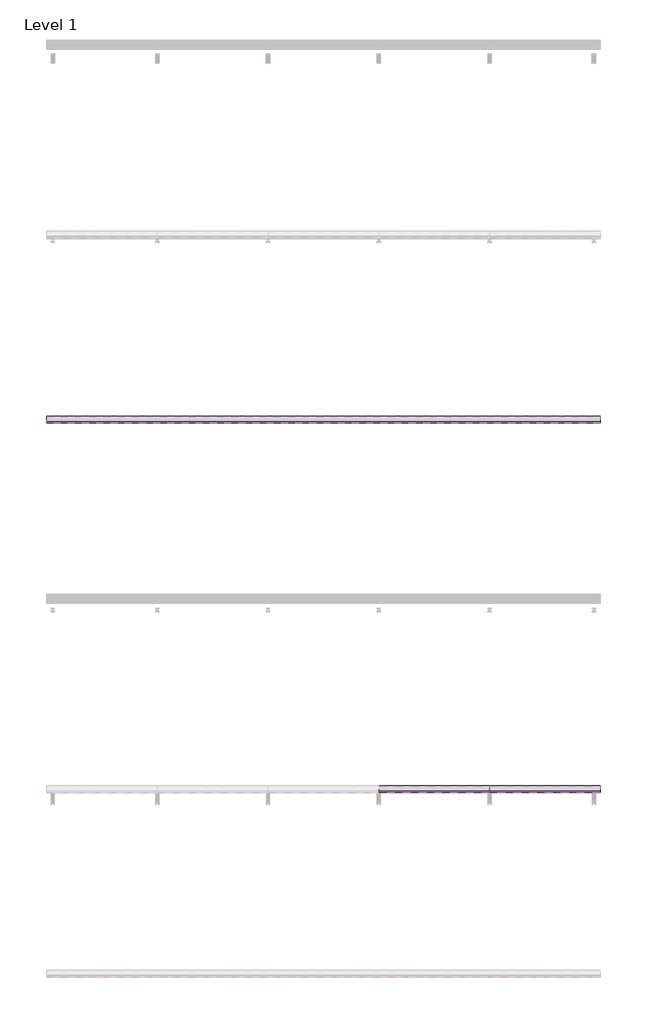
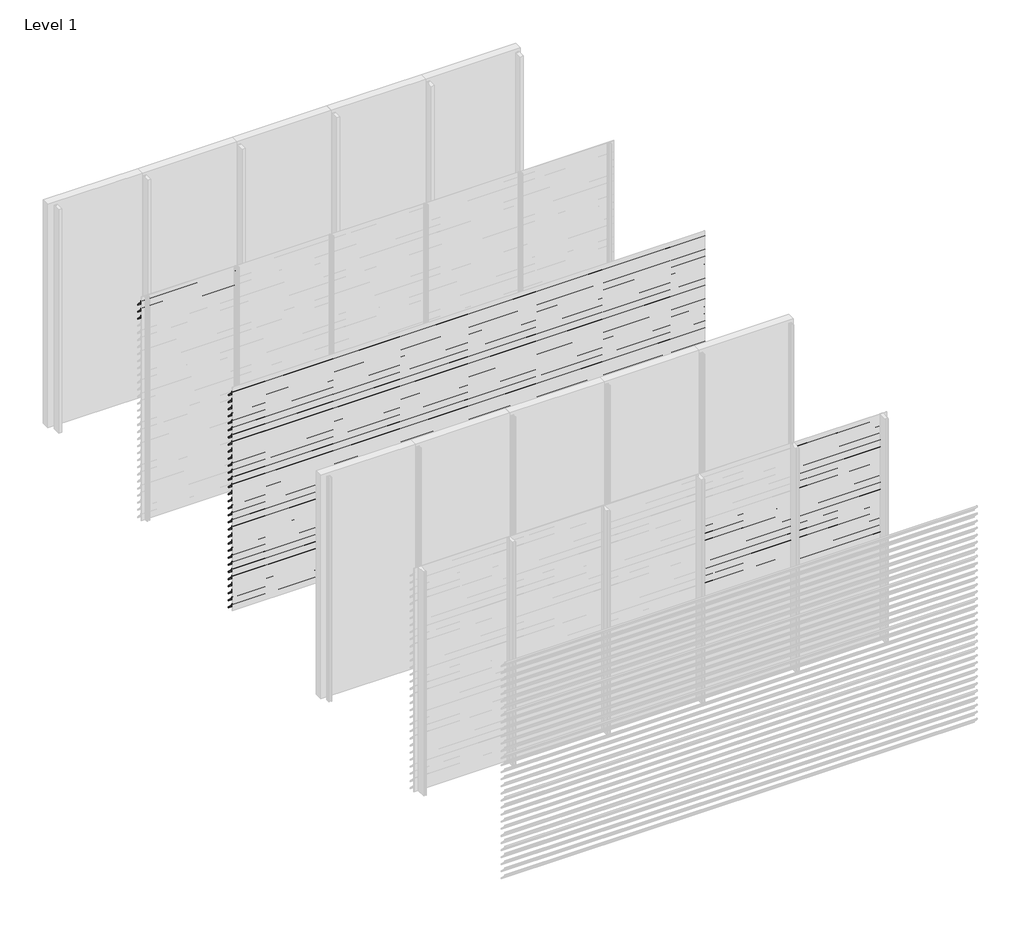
# One storey, part 7 of 24: 89 proxies.
"""IFC4 building model written with IfcOpenShell, lengths in millimetres."""

from ifc_helpers import new_model, si_unit, frame, origin, place, context, project, spatial, polyline, outline, extrude, element, save

model = new_model("IFC4")

# Units and contexts
model_context = context("Model", 3, world=origin())
ifc_project = project(units=[si_unit("LENGTHUNIT", "METRE", prefix="MILLI")], contexts=[model_context])

# Site, building, storey
site = spatial("IfcSite", under=ifc_project)
building = spatial("IfcBuilding", under=site)
storey = spatial("IfcBuildingStorey", under=building, Name="Level 1", Elevation=0.0)

# Proxies
placement = place(None, origin())
element("IfcBuildingElementProxy", 1, Name="Wall Sweeps", at=placement, inside=storey, context=model_context, shape_type="SweptSolid", body=[
    extrude(outline(polyline([(-41920.8, 2842.9), (-41922.3, 2842.9), (-41922.3, 2855.1762333), (-41998.0, 2930.4561238), (-41998.0, 2945.0), (-41996.5, 2945.0), (-41996.5, 2931.0798905), (-41920.8, 2855.8), (-41920.8, 2842.9)])), frame((0.0, 0.0, 0.0), z_axis=(1.0, 0.0, 0.0), x_axis=(0.0, 1.0, 0.0)), (0.0, 0.0, 1.0), 1200.0),
])
element("IfcBuildingElementProxy", 2, Name="Wall Sweeps", at=placement, inside=storey, context=model_context, shape_type="SweptSolid", body=[
    extrude(outline(polyline([(-41920.8, 2747.9), (-41922.3, 2747.9), (-41922.3, 2760.1762333), (-41998.0, 2835.4561238), (-41998.0, 2850.0), (-41996.5, 2850.0), (-41996.5, 2836.0798905), (-41920.8, 2760.8), (-41920.8, 2747.9)])), frame((0.0, 0.0, 0.0), z_axis=(1.0, 0.0, 0.0), x_axis=(0.0, 1.0, 0.0)), (0.0, 0.0, 1.0), 1200.0),
])
element("IfcBuildingElementProxy", 3, Name="Wall Sweeps", at=placement, inside=storey, context=model_context, shape_type="SweptSolid", body=[
    extrude(outline(polyline([(-41920.8, 2652.9), (-41922.3, 2652.9), (-41922.3, 2665.1762333), (-41998.0, 2740.4561238), (-41998.0, 2755.0), (-41996.5, 2755.0), (-41996.5, 2741.0798905), (-41920.8, 2665.8), (-41920.8, 2652.9)])), frame((0.0, 0.0, 0.0), z_axis=(1.0, 0.0, 0.0), x_axis=(0.0, 1.0, 0.0)), (0.0, 0.0, 1.0), 1200.0),
])
element("IfcBuildingElementProxy", 4, Name="Wall Sweeps", at=placement, inside=storey, context=model_context, shape_type="SweptSolid", body=[
    extrude(outline(polyline([(-43920.8, 2842.9), (-43922.3, 2842.9), (-43922.3, 2855.1762333), (-43998.0, 2930.4561238), (-43998.0, 2945.0), (-43996.5, 2945.0), (-43996.5, 2931.0798905), (-43920.8, 2855.8), (-43920.8, 2842.9)])), frame((0.0, 0.0, 0.0), z_axis=(1.0, 0.0, 0.0), x_axis=(0.0, 1.0, 0.0)), (0.0, 0.0, 1.0), 6000.0),
])
element("IfcBuildingElementProxy", 5, Name="Wall Sweeps", at=placement, inside=storey, context=model_context, shape_type="SweptSolid", body=[
    extrude(outline(polyline([(-43920.8, 2747.9), (-43922.3, 2747.9), (-43922.3, 2760.1762333), (-43998.0, 2835.4561238), (-43998.0, 2850.0), (-43996.5, 2850.0), (-43996.5, 2836.0798905), (-43920.8, 2760.8), (-43920.8, 2747.9)])), frame((0.0, 0.0, 0.0), z_axis=(1.0, 0.0, 0.0), x_axis=(0.0, 1.0, 0.0)), (0.0, 0.0, 1.0), 6000.0),
])
element("IfcBuildingElementProxy", 6, Name="Wall Sweeps", at=placement, inside=storey, context=model_context, shape_type="SweptSolid", body=[
    extrude(outline(polyline([(-43920.8, 2652.9), (-43922.3, 2652.9), (-43922.3, 2665.1762333), (-43998.0, 2740.4561238), (-43998.0, 2755.0), (-43996.5, 2755.0), (-43996.5, 2741.0798905), (-43920.8, 2665.8), (-43920.8, 2652.9)])), frame((0.0, 0.0, 0.0), z_axis=(1.0, 0.0, 0.0), x_axis=(0.0, 1.0, 0.0)), (0.0, 0.0, 1.0), 6000.0),
])
element("IfcBuildingElementProxy", 7, Name="Wall Sweeps", at=placement, inside=storey, context=model_context, shape_type="SweptSolid", body=[
    extrude(outline(polyline([(-43920.8, 2557.9), (-43922.3, 2557.9), (-43922.3, 2570.1762333), (-43998.0, 2645.4561238), (-43998.0, 2660.0), (-43996.5, 2660.0), (-43996.5, 2646.0798905), (-43920.8, 2570.8), (-43920.8, 2557.9)])), frame((0.0, 0.0, 0.0), z_axis=(1.0, 0.0, 0.0), x_axis=(0.0, 1.0, 0.0)), (0.0, 0.0, 1.0), 6000.0),
])
element("IfcBuildingElementProxy", 8, Name="Wall Sweeps", at=placement, inside=storey, context=model_context, shape_type="SweptSolid", body=[
    extrude(outline(polyline([(-43920.8, 2462.9), (-43922.3, 2462.9), (-43922.3, 2475.1762333), (-43998.0, 2550.4561238), (-43998.0, 2565.0), (-43996.5, 2565.0), (-43996.5, 2551.0798905), (-43920.8, 2475.8), (-43920.8, 2462.9)])), frame((0.0, 0.0, 0.0), z_axis=(1.0, 0.0, 0.0), x_axis=(0.0, 1.0, 0.0)), (0.0, 0.0, 1.0), 6000.0),
])
element("IfcBuildingElementProxy", 9, Name="Wall Sweeps", at=placement, inside=storey, context=model_context, shape_type="SweptSolid", body=[
    extrude(outline(polyline([(-43920.8, 2367.9), (-43922.3, 2367.9), (-43922.3, 2380.1762333), (-43998.0, 2455.4561238), (-43998.0, 2470.0), (-43996.5, 2470.0), (-43996.5, 2456.0798905), (-43920.8, 2380.8), (-43920.8, 2367.9)])), frame((0.0, 0.0, 0.0), z_axis=(1.0, 0.0, 0.0), x_axis=(0.0, 1.0, 0.0)), (0.0, 0.0, 1.0), 6000.0),
])
element("IfcBuildingElementProxy", 10, Name="Wall Sweeps", at=placement, inside=storey, context=model_context, shape_type="SweptSolid", body=[
    extrude(outline(polyline([(-43920.8, 2272.9), (-43922.3, 2272.9), (-43922.3, 2285.1762333), (-43998.0, 2360.4561238), (-43998.0, 2375.0), (-43996.5, 2375.0), (-43996.5, 2361.0798905), (-43920.8, 2285.8), (-43920.8, 2272.9)])), frame((0.0, 0.0, 0.0), z_axis=(1.0, 0.0, 0.0), x_axis=(0.0, 1.0, 0.0)), (0.0, 0.0, 1.0), 6000.0),
])
element("IfcBuildingElementProxy", 11, Name="Wall Sweeps", at=placement, inside=storey, context=model_context, shape_type="SweptSolid", body=[
    extrude(outline(polyline([(-43920.8, 2177.9), (-43922.3, 2177.9), (-43922.3, 2190.1762333), (-43998.0, 2265.4561238), (-43998.0, 2280.0), (-43996.5, 2280.0), (-43996.5, 2266.0798905), (-43920.8, 2190.8), (-43920.8, 2177.9)])), frame((0.0, 0.0, 0.0), z_axis=(1.0, 0.0, 0.0), x_axis=(0.0, 1.0, 0.0)), (0.0, 0.0, 1.0), 6000.0),
])
element("IfcBuildingElementProxy", 12, Name="Wall Sweeps", at=placement, inside=storey, context=model_context, shape_type="SweptSolid", body=[
    extrude(outline(polyline([(-43920.8, 2082.9), (-43922.3, 2082.9), (-43922.3, 2095.1762333), (-43998.0, 2170.4561238), (-43998.0, 2185.0), (-43996.5, 2185.0), (-43996.5, 2171.0798905), (-43920.8, 2095.8), (-43920.8, 2082.9)])), frame((0.0, 0.0, 0.0), z_axis=(1.0, 0.0, 0.0), x_axis=(0.0, 1.0, 0.0)), (0.0, 0.0, 1.0), 6000.0),
])
element("IfcBuildingElementProxy", 13, Name="Wall Sweeps", at=placement, inside=storey, context=model_context, shape_type="SweptSolid", body=[
    extrude(outline(polyline([(-43920.8, 1987.9), (-43922.3, 1987.9), (-43922.3, 2000.1762333), (-43998.0, 2075.4561238), (-43998.0, 2090.0), (-43996.5, 2090.0), (-43996.5, 2076.0798905), (-43920.8, 2000.8), (-43920.8, 1987.9)])), frame((0.0, 0.0, 0.0), z_axis=(1.0, 0.0, 0.0), x_axis=(0.0, 1.0, 0.0)), (0.0, 0.0, 1.0), 6000.0),
])
element("IfcBuildingElementProxy", 14, Name="Wall Sweeps", at=placement, inside=storey, context=model_context, shape_type="SweptSolid", body=[
    extrude(outline(polyline([(-43920.8, 1892.9), (-43922.3, 1892.9), (-43922.3, 1905.1762333), (-43998.0, 1980.4561238), (-43998.0, 1995.0), (-43996.5, 1995.0), (-43996.5, 1981.0798905), (-43920.8, 1905.8), (-43920.8, 1892.9)])), frame((0.0, 0.0, 0.0), z_axis=(1.0, 0.0, 0.0), x_axis=(0.0, 1.0, 0.0)), (0.0, 0.0, 1.0), 6000.0),
])
element("IfcBuildingElementProxy", 15, Name="Wall Sweeps", at=placement, inside=storey, context=model_context, shape_type="SweptSolid", body=[
    extrude(outline(polyline([(-43920.8, 1797.9), (-43922.3, 1797.9), (-43922.3, 1810.1762333), (-43998.0, 1885.4561238), (-43998.0, 1900.0), (-43996.5, 1900.0), (-43996.5, 1886.0798905), (-43920.8, 1810.8), (-43920.8, 1797.9)])), frame((0.0, 0.0, 0.0), z_axis=(1.0, 0.0, 0.0), x_axis=(0.0, 1.0, 0.0)), (0.0, 0.0, 1.0), 6000.0),
])
element("IfcBuildingElementProxy", 16, Name="Wall Sweeps", at=placement, inside=storey, context=model_context, shape_type="SweptSolid", body=[
    extrude(outline(polyline([(-43920.8, 1702.9), (-43922.3, 1702.9), (-43922.3, 1715.1762333), (-43998.0, 1790.4561238), (-43998.0, 1805.0), (-43996.5, 1805.0), (-43996.5, 1791.0798905), (-43920.8, 1715.8), (-43920.8, 1702.9)])), frame((0.0, 0.0, 0.0), z_axis=(1.0, 0.0, 0.0), x_axis=(0.0, 1.0, 0.0)), (0.0, 0.0, 1.0), 6000.0),
])
element("IfcBuildingElementProxy", 17, Name="Wall Sweeps", at=placement, inside=storey, context=model_context, shape_type="SweptSolid", body=[
    extrude(outline(polyline([(-43920.8, 1607.9), (-43922.3, 1607.9), (-43922.3, 1620.1762333), (-43998.0, 1695.4561238), (-43998.0, 1710.0), (-43996.5, 1710.0), (-43996.5, 1696.0798905), (-43920.8, 1620.8), (-43920.8, 1607.9)])), frame((0.0, 0.0, 0.0), z_axis=(1.0, 0.0, 0.0), x_axis=(0.0, 1.0, 0.0)), (0.0, 0.0, 1.0), 6000.0),
])
element("IfcBuildingElementProxy", 18, Name="Wall Sweeps", at=placement, inside=storey, context=model_context, shape_type="SweptSolid", body=[
    extrude(outline(polyline([(-43920.8, 1512.9), (-43922.3, 1512.9), (-43922.3, 1525.1762333), (-43998.0, 1600.4561238), (-43998.0, 1615.0), (-43996.5, 1615.0), (-43996.5, 1601.0798905), (-43920.8, 1525.8), (-43920.8, 1512.9)])), frame((0.0, 0.0, 0.0), z_axis=(1.0, 0.0, 0.0), x_axis=(0.0, 1.0, 0.0)), (0.0, 0.0, 1.0), 6000.0),
])
element("IfcBuildingElementProxy", 19, Name="Wall Sweeps", at=placement, inside=storey, context=model_context, shape_type="SweptSolid", body=[
    extrude(outline(polyline([(-43920.8, 1417.9), (-43922.3, 1417.9), (-43922.3, 1430.1762333), (-43998.0, 1505.4561238), (-43998.0, 1520.0), (-43996.5, 1520.0), (-43996.5, 1506.0798905), (-43920.8, 1430.8), (-43920.8, 1417.9)])), frame((0.0, 0.0, 0.0), z_axis=(1.0, 0.0, 0.0), x_axis=(0.0, 1.0, 0.0)), (0.0, 0.0, 1.0), 6000.0),
])
element("IfcBuildingElementProxy", 20, Name="Wall Sweeps", at=placement, inside=storey, context=model_context, shape_type="SweptSolid", body=[
    extrude(outline(polyline([(-43920.8, 1322.9), (-43922.3, 1322.9), (-43922.3, 1335.1762333), (-43998.0, 1410.4561238), (-43998.0, 1425.0), (-43996.5, 1425.0), (-43996.5, 1411.0798905), (-43920.8, 1335.8), (-43920.8, 1322.9)])), frame((0.0, 0.0, 0.0), z_axis=(1.0, 0.0, 0.0), x_axis=(0.0, 1.0, 0.0)), (0.0, 0.0, 1.0), 6000.0),
])
element("IfcBuildingElementProxy", 21, Name="Wall Sweeps", at=placement, inside=storey, context=model_context, shape_type="SweptSolid", body=[
    extrude(outline(polyline([(-43920.8, 1227.9), (-43922.3, 1227.9), (-43922.3, 1240.1762333), (-43998.0, 1315.4561238), (-43998.0, 1330.0), (-43996.5, 1330.0), (-43996.5, 1316.0798905), (-43920.8, 1240.8), (-43920.8, 1227.9)])), frame((0.0, 0.0, 0.0), z_axis=(1.0, 0.0, 0.0), x_axis=(0.0, 1.0, 0.0)), (0.0, 0.0, 1.0), 6000.0),
])
element("IfcBuildingElementProxy", 22, Name="Wall Sweeps", at=placement, inside=storey, context=model_context, shape_type="SweptSolid", body=[
    extrude(outline(polyline([(-43920.8, 1132.9), (-43922.3, 1132.9), (-43922.3, 1145.1762333), (-43998.0, 1220.4561238), (-43998.0, 1235.0), (-43996.5, 1235.0), (-43996.5, 1221.0798905), (-43920.8, 1145.8), (-43920.8, 1132.9)])), frame((0.0, 0.0, 0.0), z_axis=(1.0, 0.0, 0.0), x_axis=(0.0, 1.0, 0.0)), (0.0, 0.0, 1.0), 6000.0),
])
element("IfcBuildingElementProxy", 23, Name="Wall Sweeps", at=placement, inside=storey, context=model_context, shape_type="SweptSolid", body=[
    extrude(outline(polyline([(-43920.8, 1037.9), (-43922.3, 1037.9), (-43922.3, 1050.1762333), (-43998.0, 1125.4561238), (-43998.0, 1140.0), (-43996.5, 1140.0), (-43996.5, 1126.0798905), (-43920.8, 1050.8), (-43920.8, 1037.9)])), frame((0.0, 0.0, 0.0), z_axis=(1.0, 0.0, 0.0), x_axis=(0.0, 1.0, 0.0)), (0.0, 0.0, 1.0), 6000.0),
])
element("IfcBuildingElementProxy", 24, Name="Wall Sweeps", at=placement, inside=storey, context=model_context, shape_type="SweptSolid", body=[
    extrude(outline(polyline([(-43920.8, 942.9), (-43922.3, 942.9), (-43922.3, 955.1762333), (-43998.0, 1030.4561238), (-43998.0, 1045.0), (-43996.5, 1045.0), (-43996.5, 1031.0798905), (-43920.8, 955.8), (-43920.8, 942.9)])), frame((0.0, 0.0, 0.0), z_axis=(1.0, 0.0, 0.0), x_axis=(0.0, 1.0, 0.0)), (0.0, 0.0, 1.0), 6000.0),
])
element("IfcBuildingElementProxy", 25, Name="Wall Sweeps", at=placement, inside=storey, context=model_context, shape_type="SweptSolid", body=[
    extrude(outline(polyline([(-43920.8, 847.9), (-43922.3, 847.9), (-43922.3, 860.1762333), (-43998.0, 935.4561238), (-43998.0, 950.0), (-43996.5, 950.0), (-43996.5, 936.0798905), (-43920.8, 860.8), (-43920.8, 847.9)])), frame((0.0, 0.0, 0.0), z_axis=(1.0, 0.0, 0.0), x_axis=(0.0, 1.0, 0.0)), (0.0, 0.0, 1.0), 6000.0),
])
element("IfcBuildingElementProxy", 26, Name="Wall Sweeps", at=placement, inside=storey, context=model_context, shape_type="SweptSolid", body=[
    extrude(outline(polyline([(-43920.8, 752.9), (-43922.3, 752.9), (-43922.3, 765.1762333), (-43998.0, 840.4561238), (-43998.0, 855.0), (-43996.5, 855.0), (-43996.5, 841.0798905), (-43920.8, 765.8), (-43920.8, 752.9)])), frame((0.0, 0.0, 0.0), z_axis=(1.0, 0.0, 0.0), x_axis=(0.0, 1.0, 0.0)), (0.0, 0.0, 1.0), 6000.0),
])
element("IfcBuildingElementProxy", 27, Name="Wall Sweeps", at=placement, inside=storey, context=model_context, shape_type="SweptSolid", body=[
    extrude(outline(polyline([(-43920.8, 657.9), (-43922.3, 657.9), (-43922.3, 670.1762333), (-43998.0, 745.4561238), (-43998.0, 760.0), (-43996.5, 760.0), (-43996.5, 746.0798905), (-43920.8, 670.8), (-43920.8, 657.9)])), frame((0.0, 0.0, 0.0), z_axis=(1.0, 0.0, 0.0), x_axis=(0.0, 1.0, 0.0)), (0.0, 0.0, 1.0), 6000.0),
])
element("IfcBuildingElementProxy", 28, Name="Wall Sweeps", at=placement, inside=storey, context=model_context, shape_type="SweptSolid", body=[
    extrude(outline(polyline([(-43920.8, 562.9), (-43922.3, 562.9), (-43922.3, 575.1762333), (-43998.0, 650.4561238), (-43998.0, 665.0), (-43996.5, 665.0), (-43996.5, 651.0798905), (-43920.8, 575.8), (-43920.8, 562.9)])), frame((0.0, 0.0, 0.0), z_axis=(1.0, 0.0, 0.0), x_axis=(0.0, 1.0, 0.0)), (0.0, 0.0, 1.0), 6000.0),
])
element("IfcBuildingElementProxy", 29, Name="Wall Sweeps", at=placement, inside=storey, context=model_context, shape_type="SweptSolid", body=[
    extrude(outline(polyline([(-43920.8, 467.9), (-43922.3, 467.9), (-43922.3, 480.1762333), (-43998.0, 555.4561238), (-43998.0, 570.0), (-43996.5, 570.0), (-43996.5, 556.0798905), (-43920.8, 480.8), (-43920.8, 467.9)])), frame((0.0, 0.0, 0.0), z_axis=(1.0, 0.0, 0.0), x_axis=(0.0, 1.0, 0.0)), (0.0, 0.0, 1.0), 6000.0),
])
element("IfcBuildingElementProxy", 30, Name="Wall Sweeps", at=placement, inside=storey, context=model_context, shape_type="SweptSolid", body=[
    extrude(outline(polyline([(-43920.8, 372.9), (-43922.3, 372.9), (-43922.3, 385.1762333), (-43998.0, 460.4561238), (-43998.0, 475.0), (-43996.5, 475.0), (-43996.5, 461.0798905), (-43920.8, 385.8), (-43920.8, 372.9)])), frame((0.0, 0.0, 0.0), z_axis=(1.0, 0.0, 0.0), x_axis=(0.0, 1.0, 0.0)), (0.0, 0.0, 1.0), 6000.0),
])
element("IfcBuildingElementProxy", 31, Name="Wall Sweeps", at=placement, inside=storey, context=model_context, shape_type="SweptSolid", body=[
    extrude(outline(polyline([(-43920.8, 277.9), (-43922.3, 277.9), (-43922.3, 290.1762333), (-43998.0, 365.4561238), (-43998.0, 380.0), (-43996.5, 380.0), (-43996.5, 366.0798905), (-43920.8, 290.8), (-43920.8, 277.9)])), frame((0.0, 0.0, 0.0), z_axis=(1.0, 0.0, 0.0), x_axis=(0.0, 1.0, 0.0)), (0.0, 0.0, 1.0), 6000.0),
])
element("IfcBuildingElementProxy", 32, Name="Wall Sweeps", at=placement, inside=storey, context=model_context, shape_type="SweptSolid", body=[
    extrude(outline(polyline([(-43920.8, 182.9), (-43922.3, 182.9), (-43922.3, 195.1762333), (-43998.0, 270.4561238), (-43998.0, 285.0), (-43996.5, 285.0), (-43996.5, 271.0798905), (-43920.8, 195.8), (-43920.8, 182.9)])), frame((0.0, 0.0, 0.0), z_axis=(1.0, 0.0, 0.0), x_axis=(0.0, 1.0, 0.0)), (0.0, 0.0, 1.0), 6000.0),
])
element("IfcBuildingElementProxy", 33, Name="Wall Sweeps", at=placement, inside=storey, context=model_context, shape_type="SweptSolid", body=[
    extrude(outline(polyline([(-43920.8, 87.9), (-43922.3, 87.9), (-43922.3, 100.1762333), (-43998.0, 175.4561238), (-43998.0, 190.0), (-43996.5, 190.0), (-43996.5, 176.0798905), (-43920.8, 100.8), (-43920.8, 87.9)])), frame((0.0, 0.0, 0.0), z_axis=(1.0, 0.0, 0.0), x_axis=(0.0, 1.0, 0.0)), (0.0, 0.0, 1.0), 6000.0),
])
element("IfcBuildingElementProxy", 34, Name="Wall Sweeps", at=placement, inside=storey, context=model_context, shape_type="SweptSolid", body=[
    extrude(outline(polyline([(-43920.8, -7.1), (-43922.3, -7.1), (-43922.3, 5.1762333), (-43998.0, 80.4561238), (-43998.0, 95.0), (-43996.5, 95.0), (-43996.5, 81.0798905), (-43920.8, 5.8), (-43920.8, -7.1)])), frame((0.0, 0.0, 0.0), z_axis=(1.0, 0.0, 0.0), x_axis=(0.0, 1.0, 0.0)), (0.0, 0.0, 1.0), 6000.0),
])
element("IfcBuildingElementProxy", 35, Name="Wall Sweeps", at=placement, inside=storey, context=model_context, shape_type="SweptSolid", body=[
    extrude(outline(polyline([(-47920.8, 2177.9), (-47922.3, 2177.9), (-47922.3, 2190.1762333), (-47998.0, 2265.4561238), (-47998.0, 2280.0), (-47996.5, 2280.0), (-47996.5, 2266.0798905), (-47920.8, 2190.8), (-47920.8, 2177.9)])), frame((3600.0, 0.0, 0.0), z_axis=(1.0, 0.0, 0.0), x_axis=(0.0, 1.0, 0.0)), (0.0, 0.0, 1.0), 1200.0),
])
element("IfcBuildingElementProxy", 36, Name="Wall Sweeps", at=placement, inside=storey, context=model_context, shape_type="SweptSolid", body=[
    extrude(outline(polyline([(-47920.8, 2082.9), (-47922.3, 2082.9), (-47922.3, 2095.1762333), (-47998.0, 2170.4561238), (-47998.0, 2185.0), (-47996.5, 2185.0), (-47996.5, 2171.0798905), (-47920.8, 2095.8), (-47920.8, 2082.9)])), frame((3600.0, 0.0, 0.0), z_axis=(1.0, 0.0, 0.0), x_axis=(0.0, 1.0, 0.0)), (0.0, 0.0, 1.0), 1200.0),
])
element("IfcBuildingElementProxy", 37, Name="Wall Sweeps", at=placement, inside=storey, context=model_context, shape_type="SweptSolid", body=[
    extrude(outline(polyline([(-47920.8, 1987.9), (-47922.3, 1987.9), (-47922.3, 2000.1762333), (-47998.0, 2075.4561238), (-47998.0, 2090.0), (-47996.5, 2090.0), (-47996.5, 2076.0798905), (-47920.8, 2000.8), (-47920.8, 1987.9)])), frame((3600.0, 0.0, 0.0), z_axis=(1.0, 0.0, 0.0), x_axis=(0.0, 1.0, 0.0)), (0.0, 0.0, 1.0), 1200.0),
])
element("IfcBuildingElementProxy", 38, Name="Wall Sweeps", at=placement, inside=storey, context=model_context, shape_type="SweptSolid", body=[
    extrude(outline(polyline([(-47920.8, 1892.9), (-47922.3, 1892.9), (-47922.3, 1905.1762333), (-47998.0, 1980.4561238), (-47998.0, 1995.0), (-47996.5, 1995.0), (-47996.5, 1981.0798905), (-47920.8, 1905.8), (-47920.8, 1892.9)])), frame((3600.0, 0.0, 0.0), z_axis=(1.0, 0.0, 0.0), x_axis=(0.0, 1.0, 0.0)), (0.0, 0.0, 1.0), 1200.0),
])
element("IfcBuildingElementProxy", 39, Name="Wall Sweeps", at=placement, inside=storey, context=model_context, shape_type="SweptSolid", body=[
    extrude(outline(polyline([(-47920.8, 1797.9), (-47922.3, 1797.9), (-47922.3, 1810.1762333), (-47998.0, 1885.4561238), (-47998.0, 1900.0), (-47996.5, 1900.0), (-47996.5, 1886.0798905), (-47920.8, 1810.8), (-47920.8, 1797.9)])), frame((3600.0, 0.0, 0.0), z_axis=(1.0, 0.0, 0.0), x_axis=(0.0, 1.0, 0.0)), (0.0, 0.0, 1.0), 1200.0),
])
element("IfcBuildingElementProxy", 40, Name="Wall Sweeps", at=placement, inside=storey, context=model_context, shape_type="SweptSolid", body=[
    extrude(outline(polyline([(-47920.8, 1702.9), (-47922.3, 1702.9), (-47922.3, 1715.1762333), (-47998.0, 1790.4561238), (-47998.0, 1805.0), (-47996.5, 1805.0), (-47996.5, 1791.0798905), (-47920.8, 1715.8), (-47920.8, 1702.9)])), frame((3600.0, 0.0, 0.0), z_axis=(1.0, 0.0, 0.0), x_axis=(0.0, 1.0, 0.0)), (0.0, 0.0, 1.0), 1200.0),
])
element("IfcBuildingElementProxy", 41, Name="Wall Sweeps", at=placement, inside=storey, context=model_context, shape_type="SweptSolid", body=[
    extrude(outline(polyline([(-47920.8, 1607.9), (-47922.3, 1607.9), (-47922.3, 1620.1762333), (-47998.0, 1695.4561238), (-47998.0, 1710.0), (-47996.5, 1710.0), (-47996.5, 1696.0798905), (-47920.8, 1620.8), (-47920.8, 1607.9)])), frame((3600.0, 0.0, 0.0), z_axis=(1.0, 0.0, 0.0), x_axis=(0.0, 1.0, 0.0)), (0.0, 0.0, 1.0), 1200.0),
])
element("IfcBuildingElementProxy", 42, Name="Wall Sweeps", at=placement, inside=storey, context=model_context, shape_type="SweptSolid", body=[
    extrude(outline(polyline([(-47920.8, 1512.9), (-47922.3, 1512.9), (-47922.3, 1525.1762333), (-47998.0, 1600.4561238), (-47998.0, 1615.0), (-47996.5, 1615.0), (-47996.5, 1601.0798905), (-47920.8, 1525.8), (-47920.8, 1512.9)])), frame((3600.0, 0.0, 0.0), z_axis=(1.0, 0.0, 0.0), x_axis=(0.0, 1.0, 0.0)), (0.0, 0.0, 1.0), 1200.0),
])
element("IfcBuildingElementProxy", 43, Name="Wall Sweeps", at=placement, inside=storey, context=model_context, shape_type="SweptSolid", body=[
    extrude(outline(polyline([(-47920.8, 1417.9), (-47922.3, 1417.9), (-47922.3, 1430.1762333), (-47998.0, 1505.4561238), (-47998.0, 1520.0), (-47996.5, 1520.0), (-47996.5, 1506.0798905), (-47920.8, 1430.8), (-47920.8, 1417.9)])), frame((3600.0, 0.0, 0.0), z_axis=(1.0, 0.0, 0.0), x_axis=(0.0, 1.0, 0.0)), (0.0, 0.0, 1.0), 1200.0),
])
element("IfcBuildingElementProxy", 44, Name="Wall Sweeps", at=placement, inside=storey, context=model_context, shape_type="SweptSolid", body=[
    extrude(outline(polyline([(-47920.8, 1322.9), (-47922.3, 1322.9), (-47922.3, 1335.1762333), (-47998.0, 1410.4561238), (-47998.0, 1425.0), (-47996.5, 1425.0), (-47996.5, 1411.0798905), (-47920.8, 1335.8), (-47920.8, 1322.9)])), frame((3600.0, 0.0, 0.0), z_axis=(1.0, 0.0, 0.0), x_axis=(0.0, 1.0, 0.0)), (0.0, 0.0, 1.0), 1200.0),
])
element("IfcBuildingElementProxy", 45, Name="Wall Sweeps", at=placement, inside=storey, context=model_context, shape_type="SweptSolid", body=[
    extrude(outline(polyline([(-47920.8, 1227.9), (-47922.3, 1227.9), (-47922.3, 1240.1762333), (-47998.0, 1315.4561238), (-47998.0, 1330.0), (-47996.5, 1330.0), (-47996.5, 1316.0798905), (-47920.8, 1240.8), (-47920.8, 1227.9)])), frame((3600.0, 0.0, 0.0), z_axis=(1.0, 0.0, 0.0), x_axis=(0.0, 1.0, 0.0)), (0.0, 0.0, 1.0), 1200.0),
])
element("IfcBuildingElementProxy", 46, Name="Wall Sweeps", at=placement, inside=storey, context=model_context, shape_type="SweptSolid", body=[
    extrude(outline(polyline([(-47920.8, 1132.9), (-47922.3, 1132.9), (-47922.3, 1145.1762333), (-47998.0, 1220.4561238), (-47998.0, 1235.0), (-47996.5, 1235.0), (-47996.5, 1221.0798905), (-47920.8, 1145.8), (-47920.8, 1132.9)])), frame((3600.0, 0.0, 0.0), z_axis=(1.0, 0.0, 0.0), x_axis=(0.0, 1.0, 0.0)), (0.0, 0.0, 1.0), 1200.0),
])
element("IfcBuildingElementProxy", 47, Name="Wall Sweeps", at=placement, inside=storey, context=model_context, shape_type="SweptSolid", body=[
    extrude(outline(polyline([(-47920.8, 1037.9), (-47922.3, 1037.9), (-47922.3, 1050.1762333), (-47998.0, 1125.4561238), (-47998.0, 1140.0), (-47996.5, 1140.0), (-47996.5, 1126.0798905), (-47920.8, 1050.8), (-47920.8, 1037.9)])), frame((3600.0, 0.0, 0.0), z_axis=(1.0, 0.0, 0.0), x_axis=(0.0, 1.0, 0.0)), (0.0, 0.0, 1.0), 1200.0),
])
element("IfcBuildingElementProxy", 48, Name="Wall Sweeps", at=placement, inside=storey, context=model_context, shape_type="SweptSolid", body=[
    extrude(outline(polyline([(-47920.8, 942.9), (-47922.3, 942.9), (-47922.3, 955.1762333), (-47998.0, 1030.4561238), (-47998.0, 1045.0), (-47996.5, 1045.0), (-47996.5, 1031.0798905), (-47920.8, 955.8), (-47920.8, 942.9)])), frame((3600.0, 0.0, 0.0), z_axis=(1.0, 0.0, 0.0), x_axis=(0.0, 1.0, 0.0)), (0.0, 0.0, 1.0), 1200.0),
])
element("IfcBuildingElementProxy", 49, Name="Wall Sweeps", at=placement, inside=storey, context=model_context, shape_type="SweptSolid", body=[
    extrude(outline(polyline([(-47920.8, 847.9), (-47922.3, 847.9), (-47922.3, 860.1762333), (-47998.0, 935.4561238), (-47998.0, 950.0), (-47996.5, 950.0), (-47996.5, 936.0798905), (-47920.8, 860.8), (-47920.8, 847.9)])), frame((3600.0, 0.0, 0.0), z_axis=(1.0, 0.0, 0.0), x_axis=(0.0, 1.0, 0.0)), (0.0, 0.0, 1.0), 1200.0),
])
element("IfcBuildingElementProxy", 50, Name="Wall Sweeps", at=placement, inside=storey, context=model_context, shape_type="SweptSolid", body=[
    extrude(outline(polyline([(-47920.8, 752.9), (-47922.3, 752.9), (-47922.3, 765.1762333), (-47998.0, 840.4561238), (-47998.0, 855.0), (-47996.5, 855.0), (-47996.5, 841.0798905), (-47920.8, 765.8), (-47920.8, 752.9)])), frame((3600.0, 0.0, 0.0), z_axis=(1.0, 0.0, 0.0), x_axis=(0.0, 1.0, 0.0)), (0.0, 0.0, 1.0), 1200.0),
])
element("IfcBuildingElementProxy", 51, Name="Wall Sweeps", at=placement, inside=storey, context=model_context, shape_type="SweptSolid", body=[
    extrude(outline(polyline([(-47920.8, 657.9), (-47922.3, 657.9), (-47922.3, 670.1762333), (-47998.0, 745.4561238), (-47998.0, 760.0), (-47996.5, 760.0), (-47996.5, 746.0798905), (-47920.8, 670.8), (-47920.8, 657.9)])), frame((3600.0, 0.0, 0.0), z_axis=(1.0, 0.0, 0.0), x_axis=(0.0, 1.0, 0.0)), (0.0, 0.0, 1.0), 1200.0),
])
element("IfcBuildingElementProxy", 52, Name="Wall Sweeps", at=placement, inside=storey, context=model_context, shape_type="SweptSolid", body=[
    extrude(outline(polyline([(-47920.8, 562.9), (-47922.3, 562.9), (-47922.3, 575.1762333), (-47998.0, 650.4561238), (-47998.0, 665.0), (-47996.5, 665.0), (-47996.5, 651.0798905), (-47920.8, 575.8), (-47920.8, 562.9)])), frame((3600.0, 0.0, 0.0), z_axis=(1.0, 0.0, 0.0), x_axis=(0.0, 1.0, 0.0)), (0.0, 0.0, 1.0), 1200.0),
])
element("IfcBuildingElementProxy", 53, Name="Wall Sweeps", at=placement, inside=storey, context=model_context, shape_type="SweptSolid", body=[
    extrude(outline(polyline([(-47920.8, 467.9), (-47922.3, 467.9), (-47922.3, 480.1762333), (-47998.0, 555.4561238), (-47998.0, 570.0), (-47996.5, 570.0), (-47996.5, 556.0798905), (-47920.8, 480.8), (-47920.8, 467.9)])), frame((3600.0, 0.0, 0.0), z_axis=(1.0, 0.0, 0.0), x_axis=(0.0, 1.0, 0.0)), (0.0, 0.0, 1.0), 1200.0),
])
element("IfcBuildingElementProxy", 54, Name="Wall Sweeps", at=placement, inside=storey, context=model_context, shape_type="SweptSolid", body=[
    extrude(outline(polyline([(-47920.8, 372.9), (-47922.3, 372.9), (-47922.3, 385.1762333), (-47998.0, 460.4561238), (-47998.0, 475.0), (-47996.5, 475.0), (-47996.5, 461.0798905), (-47920.8, 385.8), (-47920.8, 372.9)])), frame((3600.0, 0.0, 0.0), z_axis=(1.0, 0.0, 0.0), x_axis=(0.0, 1.0, 0.0)), (0.0, 0.0, 1.0), 1200.0),
])
element("IfcBuildingElementProxy", 55, Name="Wall Sweeps", at=placement, inside=storey, context=model_context, shape_type="SweptSolid", body=[
    extrude(outline(polyline([(-47920.8, 277.9), (-47922.3, 277.9), (-47922.3, 290.1762333), (-47998.0, 365.4561238), (-47998.0, 380.0), (-47996.5, 380.0), (-47996.5, 366.0798905), (-47920.8, 290.8), (-47920.8, 277.9)])), frame((3600.0, 0.0, 0.0), z_axis=(1.0, 0.0, 0.0), x_axis=(0.0, 1.0, 0.0)), (0.0, 0.0, 1.0), 1200.0),
])
element("IfcBuildingElementProxy", 56, Name="Wall Sweeps", at=placement, inside=storey, context=model_context, shape_type="SweptSolid", body=[
    extrude(outline(polyline([(-47920.8, 182.9), (-47922.3, 182.9), (-47922.3, 195.1762333), (-47998.0, 270.4561238), (-47998.0, 285.0), (-47996.5, 285.0), (-47996.5, 271.0798905), (-47920.8, 195.8), (-47920.8, 182.9)])), frame((3600.0, 0.0, 0.0), z_axis=(1.0, 0.0, 0.0), x_axis=(0.0, 1.0, 0.0)), (0.0, 0.0, 1.0), 1200.0),
])
element("IfcBuildingElementProxy", 57, Name="Wall Sweeps", at=placement, inside=storey, context=model_context, shape_type="SweptSolid", body=[
    extrude(outline(polyline([(-47920.8, 87.9), (-47922.3, 87.9), (-47922.3, 100.1762333), (-47998.0, 175.4561238), (-47998.0, 190.0), (-47996.5, 190.0), (-47996.5, 176.0798905), (-47920.8, 100.8), (-47920.8, 87.9)])), frame((3600.0, 0.0, 0.0), z_axis=(1.0, 0.0, 0.0), x_axis=(0.0, 1.0, 0.0)), (0.0, 0.0, 1.0), 1200.0),
])
element("IfcBuildingElementProxy", 58, Name="Wall Sweeps", at=placement, inside=storey, context=model_context, shape_type="SweptSolid", body=[
    extrude(outline(polyline([(-47920.8, -7.1), (-47922.3, -7.1), (-47922.3, 5.1762333), (-47998.0, 80.4561238), (-47998.0, 95.0), (-47996.5, 95.0), (-47996.5, 81.0798905), (-47920.8, 5.8), (-47920.8, -7.1)])), frame((3600.0, 0.0, 0.0), z_axis=(1.0, 0.0, 0.0), x_axis=(0.0, 1.0, 0.0)), (0.0, 0.0, 1.0), 1200.0),
])
element("IfcBuildingElementProxy", 59, Name="Wall Sweeps", at=placement, inside=storey, context=model_context, shape_type="SweptSolid", body=[
    extrude(outline(polyline([(-47920.8, 2842.9), (-47922.3, 2842.9), (-47922.3, 2855.1762333), (-47998.0, 2930.4561238), (-47998.0, 2945.0), (-47996.5, 2945.0), (-47996.5, 2931.0798905), (-47920.8, 2855.8), (-47920.8, 2842.9)])), frame((4800.0, 0.0, 0.0), z_axis=(1.0, 0.0, 0.0), x_axis=(0.0, 1.0, 0.0)), (0.0, 0.0, 1.0), 1200.0),
])
element("IfcBuildingElementProxy", 60, Name="Wall Sweeps", at=placement, inside=storey, context=model_context, shape_type="SweptSolid", body=[
    extrude(outline(polyline([(-47920.8, 2747.9), (-47922.3, 2747.9), (-47922.3, 2760.1762333), (-47998.0, 2835.4561238), (-47998.0, 2850.0), (-47996.5, 2850.0), (-47996.5, 2836.0798905), (-47920.8, 2760.8), (-47920.8, 2747.9)])), frame((4800.0, 0.0, 0.0), z_axis=(1.0, 0.0, 0.0), x_axis=(0.0, 1.0, 0.0)), (0.0, 0.0, 1.0), 1200.0),
])
element("IfcBuildingElementProxy", 61, Name="Wall Sweeps", at=placement, inside=storey, context=model_context, shape_type="SweptSolid", body=[
    extrude(outline(polyline([(-47920.8, 2652.9), (-47922.3, 2652.9), (-47922.3, 2665.1762333), (-47998.0, 2740.4561238), (-47998.0, 2755.0), (-47996.5, 2755.0), (-47996.5, 2741.0798905), (-47920.8, 2665.8), (-47920.8, 2652.9)])), frame((4800.0, 0.0, 0.0), z_axis=(1.0, 0.0, 0.0), x_axis=(0.0, 1.0, 0.0)), (0.0, 0.0, 1.0), 1200.0),
])
element("IfcBuildingElementProxy", 62, Name="Wall Sweeps", at=placement, inside=storey, context=model_context, shape_type="SweptSolid", body=[
    extrude(outline(polyline([(-47920.8, 2557.9), (-47922.3, 2557.9), (-47922.3, 2570.1762333), (-47998.0, 2645.4561238), (-47998.0, 2660.0), (-47996.5, 2660.0), (-47996.5, 2646.0798905), (-47920.8, 2570.8), (-47920.8, 2557.9)])), frame((4800.0, 0.0, 0.0), z_axis=(1.0, 0.0, 0.0), x_axis=(0.0, 1.0, 0.0)), (0.0, 0.0, 1.0), 1200.0),
])
element("IfcBuildingElementProxy", 63, Name="Wall Sweeps", at=placement, inside=storey, context=model_context, shape_type="SweptSolid", body=[
    extrude(outline(polyline([(-47920.8, 2462.9), (-47922.3, 2462.9), (-47922.3, 2475.1762333), (-47998.0, 2550.4561238), (-47998.0, 2565.0), (-47996.5, 2565.0), (-47996.5, 2551.0798905), (-47920.8, 2475.8), (-47920.8, 2462.9)])), frame((4800.0, 0.0, 0.0), z_axis=(1.0, 0.0, 0.0), x_axis=(0.0, 1.0, 0.0)), (0.0, 0.0, 1.0), 1200.0),
])
element("IfcBuildingElementProxy", 64, Name="Wall Sweeps", at=placement, inside=storey, context=model_context, shape_type="SweptSolid", body=[
    extrude(outline(polyline([(-47920.8, 2367.9), (-47922.3, 2367.9), (-47922.3, 2380.1762333), (-47998.0, 2455.4561238), (-47998.0, 2470.0), (-47996.5, 2470.0), (-47996.5, 2456.0798905), (-47920.8, 2380.8), (-47920.8, 2367.9)])), frame((4800.0, 0.0, 0.0), z_axis=(1.0, 0.0, 0.0), x_axis=(0.0, 1.0, 0.0)), (0.0, 0.0, 1.0), 1200.0),
])
element("IfcBuildingElementProxy", 65, Name="Wall Sweeps", at=placement, inside=storey, context=model_context, shape_type="SweptSolid", body=[
    extrude(outline(polyline([(-47920.8, 2272.9), (-47922.3, 2272.9), (-47922.3, 2285.1762333), (-47998.0, 2360.4561238), (-47998.0, 2375.0), (-47996.5, 2375.0), (-47996.5, 2361.0798905), (-47920.8, 2285.8), (-47920.8, 2272.9)])), frame((4800.0, 0.0, 0.0), z_axis=(1.0, 0.0, 0.0), x_axis=(0.0, 1.0, 0.0)), (0.0, 0.0, 1.0), 1200.0),
])
element("IfcBuildingElementProxy", 66, Name="Wall Sweeps", at=placement, inside=storey, context=model_context, shape_type="SweptSolid", body=[
    extrude(outline(polyline([(-47920.8, 2177.9), (-47922.3, 2177.9), (-47922.3, 2190.1762333), (-47998.0, 2265.4561238), (-47998.0, 2280.0), (-47996.5, 2280.0), (-47996.5, 2266.0798905), (-47920.8, 2190.8), (-47920.8, 2177.9)])), frame((4800.0, 0.0, 0.0), z_axis=(1.0, 0.0, 0.0), x_axis=(0.0, 1.0, 0.0)), (0.0, 0.0, 1.0), 1200.0),
])
element("IfcBuildingElementProxy", 67, Name="Wall Sweeps", at=placement, inside=storey, context=model_context, shape_type="SweptSolid", body=[
    extrude(outline(polyline([(-47920.8, 2082.9), (-47922.3, 2082.9), (-47922.3, 2095.1762333), (-47998.0, 2170.4561238), (-47998.0, 2185.0), (-47996.5, 2185.0), (-47996.5, 2171.0798905), (-47920.8, 2095.8), (-47920.8, 2082.9)])), frame((4800.0, 0.0, 0.0), z_axis=(1.0, 0.0, 0.0), x_axis=(0.0, 1.0, 0.0)), (0.0, 0.0, 1.0), 1200.0),
])
element("IfcBuildingElementProxy", 68, Name="Wall Sweeps", at=placement, inside=storey, context=model_context, shape_type="SweptSolid", body=[
    extrude(outline(polyline([(-47920.8, 1987.9), (-47922.3, 1987.9), (-47922.3, 2000.1762333), (-47998.0, 2075.4561238), (-47998.0, 2090.0), (-47996.5, 2090.0), (-47996.5, 2076.0798905), (-47920.8, 2000.8), (-47920.8, 1987.9)])), frame((4800.0, 0.0, 0.0), z_axis=(1.0, 0.0, 0.0), x_axis=(0.0, 1.0, 0.0)), (0.0, 0.0, 1.0), 1200.0),
])
element("IfcBuildingElementProxy", 69, Name="Wall Sweeps", at=placement, inside=storey, context=model_context, shape_type="SweptSolid", body=[
    extrude(outline(polyline([(-47920.8, 1892.9), (-47922.3, 1892.9), (-47922.3, 1905.1762333), (-47998.0, 1980.4561238), (-47998.0, 1995.0), (-47996.5, 1995.0), (-47996.5, 1981.0798905), (-47920.8, 1905.8), (-47920.8, 1892.9)])), frame((4800.0, 0.0, 0.0), z_axis=(1.0, 0.0, 0.0), x_axis=(0.0, 1.0, 0.0)), (0.0, 0.0, 1.0), 1200.0),
])
element("IfcBuildingElementProxy", 70, Name="Wall Sweeps", at=placement, inside=storey, context=model_context, shape_type="SweptSolid", body=[
    extrude(outline(polyline([(-47920.8, 1797.9), (-47922.3, 1797.9), (-47922.3, 1810.1762333), (-47998.0, 1885.4561238), (-47998.0, 1900.0), (-47996.5, 1900.0), (-47996.5, 1886.0798905), (-47920.8, 1810.8), (-47920.8, 1797.9)])), frame((4800.0, 0.0, 0.0), z_axis=(1.0, 0.0, 0.0), x_axis=(0.0, 1.0, 0.0)), (0.0, 0.0, 1.0), 1200.0),
])
element("IfcBuildingElementProxy", 71, Name="Wall Sweeps", at=placement, inside=storey, context=model_context, shape_type="SweptSolid", body=[
    extrude(outline(polyline([(-47920.8, 1702.9), (-47922.3, 1702.9), (-47922.3, 1715.1762333), (-47998.0, 1790.4561238), (-47998.0, 1805.0), (-47996.5, 1805.0), (-47996.5, 1791.0798905), (-47920.8, 1715.8), (-47920.8, 1702.9)])), frame((4800.0, 0.0, 0.0), z_axis=(1.0, 0.0, 0.0), x_axis=(0.0, 1.0, 0.0)), (0.0, 0.0, 1.0), 1200.0),
])
element("IfcBuildingElementProxy", 72, Name="Wall Sweeps", at=placement, inside=storey, context=model_context, shape_type="SweptSolid", body=[
    extrude(outline(polyline([(-47920.8, 1607.9), (-47922.3, 1607.9), (-47922.3, 1620.1762333), (-47998.0, 1695.4561238), (-47998.0, 1710.0), (-47996.5, 1710.0), (-47996.5, 1696.0798905), (-47920.8, 1620.8), (-47920.8, 1607.9)])), frame((4800.0, 0.0, 0.0), z_axis=(1.0, 0.0, 0.0), x_axis=(0.0, 1.0, 0.0)), (0.0, 0.0, 1.0), 1200.0),
])
element("IfcBuildingElementProxy", 73, Name="Wall Sweeps", at=placement, inside=storey, context=model_context, shape_type="SweptSolid", body=[
    extrude(outline(polyline([(-47920.8, 1512.9), (-47922.3, 1512.9), (-47922.3, 1525.1762333), (-47998.0, 1600.4561238), (-47998.0, 1615.0), (-47996.5, 1615.0), (-47996.5, 1601.0798905), (-47920.8, 1525.8), (-47920.8, 1512.9)])), frame((4800.0, 0.0, 0.0), z_axis=(1.0, 0.0, 0.0), x_axis=(0.0, 1.0, 0.0)), (0.0, 0.0, 1.0), 1200.0),
])
element("IfcBuildingElementProxy", 74, Name="Wall Sweeps", at=placement, inside=storey, context=model_context, shape_type="SweptSolid", body=[
    extrude(outline(polyline([(-47920.8, 1417.9), (-47922.3, 1417.9), (-47922.3, 1430.1762333), (-47998.0, 1505.4561238), (-47998.0, 1520.0), (-47996.5, 1520.0), (-47996.5, 1506.0798905), (-47920.8, 1430.8), (-47920.8, 1417.9)])), frame((4800.0, 0.0, 0.0), z_axis=(1.0, 0.0, 0.0), x_axis=(0.0, 1.0, 0.0)), (0.0, 0.0, 1.0), 1200.0),
])
element("IfcBuildingElementProxy", 75, Name="Wall Sweeps", at=placement, inside=storey, context=model_context, shape_type="SweptSolid", body=[
    extrude(outline(polyline([(-47920.8, 1322.9), (-47922.3, 1322.9), (-47922.3, 1335.1762333), (-47998.0, 1410.4561238), (-47998.0, 1425.0), (-47996.5, 1425.0), (-47996.5, 1411.0798905), (-47920.8, 1335.8), (-47920.8, 1322.9)])), frame((4800.0, 0.0, 0.0), z_axis=(1.0, 0.0, 0.0), x_axis=(0.0, 1.0, 0.0)), (0.0, 0.0, 1.0), 1200.0),
])
element("IfcBuildingElementProxy", 76, Name="Wall Sweeps", at=placement, inside=storey, context=model_context, shape_type="SweptSolid", body=[
    extrude(outline(polyline([(-47920.8, 1227.9), (-47922.3, 1227.9), (-47922.3, 1240.1762333), (-47998.0, 1315.4561238), (-47998.0, 1330.0), (-47996.5, 1330.0), (-47996.5, 1316.0798905), (-47920.8, 1240.8), (-47920.8, 1227.9)])), frame((4800.0, 0.0, 0.0), z_axis=(1.0, 0.0, 0.0), x_axis=(0.0, 1.0, 0.0)), (0.0, 0.0, 1.0), 1200.0),
])
element("IfcBuildingElementProxy", 77, Name="Wall Sweeps", at=placement, inside=storey, context=model_context, shape_type="SweptSolid", body=[
    extrude(outline(polyline([(-47920.8, 1132.9), (-47922.3, 1132.9), (-47922.3, 1145.1762333), (-47998.0, 1220.4561238), (-47998.0, 1235.0), (-47996.5, 1235.0), (-47996.5, 1221.0798905), (-47920.8, 1145.8), (-47920.8, 1132.9)])), frame((4800.0, 0.0, 0.0), z_axis=(1.0, 0.0, 0.0), x_axis=(0.0, 1.0, 0.0)), (0.0, 0.0, 1.0), 1200.0),
])
element("IfcBuildingElementProxy", 78, Name="Wall Sweeps", at=placement, inside=storey, context=model_context, shape_type="SweptSolid", body=[
    extrude(outline(polyline([(-47920.8, 1037.9), (-47922.3, 1037.9), (-47922.3, 1050.1762333), (-47998.0, 1125.4561238), (-47998.0, 1140.0), (-47996.5, 1140.0), (-47996.5, 1126.0798905), (-47920.8, 1050.8), (-47920.8, 1037.9)])), frame((4800.0, 0.0, 0.0), z_axis=(1.0, 0.0, 0.0), x_axis=(0.0, 1.0, 0.0)), (0.0, 0.0, 1.0), 1200.0),
])
element("IfcBuildingElementProxy", 79, Name="Wall Sweeps", at=placement, inside=storey, context=model_context, shape_type="SweptSolid", body=[
    extrude(outline(polyline([(-47920.8, 942.9), (-47922.3, 942.9), (-47922.3, 955.1762333), (-47998.0, 1030.4561238), (-47998.0, 1045.0), (-47996.5, 1045.0), (-47996.5, 1031.0798905), (-47920.8, 955.8), (-47920.8, 942.9)])), frame((4800.0, 0.0, 0.0), z_axis=(1.0, 0.0, 0.0), x_axis=(0.0, 1.0, 0.0)), (0.0, 0.0, 1.0), 1200.0),
])
element("IfcBuildingElementProxy", 80, Name="Wall Sweeps", at=placement, inside=storey, context=model_context, shape_type="SweptSolid", body=[
    extrude(outline(polyline([(-47920.8, 847.9), (-47922.3, 847.9), (-47922.3, 860.1762333), (-47998.0, 935.4561238), (-47998.0, 950.0), (-47996.5, 950.0), (-47996.5, 936.0798905), (-47920.8, 860.8), (-47920.8, 847.9)])), frame((4800.0, 0.0, 0.0), z_axis=(1.0, 0.0, 0.0), x_axis=(0.0, 1.0, 0.0)), (0.0, 0.0, 1.0), 1200.0),
])
element("IfcBuildingElementProxy", 81, Name="Wall Sweeps", at=placement, inside=storey, context=model_context, shape_type="SweptSolid", body=[
    extrude(outline(polyline([(-47920.8, 752.9), (-47922.3, 752.9), (-47922.3, 765.1762333), (-47998.0, 840.4561238), (-47998.0, 855.0), (-47996.5, 855.0), (-47996.5, 841.0798905), (-47920.8, 765.8), (-47920.8, 752.9)])), frame((4800.0, 0.0, 0.0), z_axis=(1.0, 0.0, 0.0), x_axis=(0.0, 1.0, 0.0)), (0.0, 0.0, 1.0), 1200.0),
])
element("IfcBuildingElementProxy", 82, Name="Wall Sweeps", at=placement, inside=storey, context=model_context, shape_type="SweptSolid", body=[
    extrude(outline(polyline([(-47920.8, 657.9), (-47922.3, 657.9), (-47922.3, 670.1762333), (-47998.0, 745.4561238), (-47998.0, 760.0), (-47996.5, 760.0), (-47996.5, 746.0798905), (-47920.8, 670.8), (-47920.8, 657.9)])), frame((4800.0, 0.0, 0.0), z_axis=(1.0, 0.0, 0.0), x_axis=(0.0, 1.0, 0.0)), (0.0, 0.0, 1.0), 1200.0),
])
element("IfcBuildingElementProxy", 83, Name="Wall Sweeps", at=placement, inside=storey, context=model_context, shape_type="SweptSolid", body=[
    extrude(outline(polyline([(-47920.8, 562.9), (-47922.3, 562.9), (-47922.3, 575.1762333), (-47998.0, 650.4561238), (-47998.0, 665.0), (-47996.5, 665.0), (-47996.5, 651.0798905), (-47920.8, 575.8), (-47920.8, 562.9)])), frame((4800.0, 0.0, 0.0), z_axis=(1.0, 0.0, 0.0), x_axis=(0.0, 1.0, 0.0)), (0.0, 0.0, 1.0), 1200.0),
])
element("IfcBuildingElementProxy", 84, Name="Wall Sweeps", at=placement, inside=storey, context=model_context, shape_type="SweptSolid", body=[
    extrude(outline(polyline([(-47920.8, 467.9), (-47922.3, 467.9), (-47922.3, 480.1762333), (-47998.0, 555.4561238), (-47998.0, 570.0), (-47996.5, 570.0), (-47996.5, 556.0798905), (-47920.8, 480.8), (-47920.8, 467.9)])), frame((4800.0, 0.0, 0.0), z_axis=(1.0, 0.0, 0.0), x_axis=(0.0, 1.0, 0.0)), (0.0, 0.0, 1.0), 1200.0),
])
element("IfcBuildingElementProxy", 85, Name="Wall Sweeps", at=placement, inside=storey, context=model_context, shape_type="SweptSolid", body=[
    extrude(outline(polyline([(-47920.8, 372.9), (-47922.3, 372.9), (-47922.3, 385.1762333), (-47998.0, 460.4561238), (-47998.0, 475.0), (-47996.5, 475.0), (-47996.5, 461.0798905), (-47920.8, 385.8), (-47920.8, 372.9)])), frame((4800.0, 0.0, 0.0), z_axis=(1.0, 0.0, 0.0), x_axis=(0.0, 1.0, 0.0)), (0.0, 0.0, 1.0), 1200.0),
])
element("IfcBuildingElementProxy", 86, Name="Wall Sweeps", at=placement, inside=storey, context=model_context, shape_type="SweptSolid", body=[
    extrude(outline(polyline([(-47920.8, 277.9), (-47922.3, 277.9), (-47922.3, 290.1762333), (-47998.0, 365.4561238), (-47998.0, 380.0), (-47996.5, 380.0), (-47996.5, 366.0798905), (-47920.8, 290.8), (-47920.8, 277.9)])), frame((4800.0, 0.0, 0.0), z_axis=(1.0, 0.0, 0.0), x_axis=(0.0, 1.0, 0.0)), (0.0, 0.0, 1.0), 1200.0),
])
element("IfcBuildingElementProxy", 87, Name="Wall Sweeps", at=placement, inside=storey, context=model_context, shape_type="SweptSolid", body=[
    extrude(outline(polyline([(-47920.8, 182.9), (-47922.3, 182.9), (-47922.3, 195.1762333), (-47998.0, 270.4561238), (-47998.0, 285.0), (-47996.5, 285.0), (-47996.5, 271.0798905), (-47920.8, 195.8), (-47920.8, 182.9)])), frame((4800.0, 0.0, 0.0), z_axis=(1.0, 0.0, 0.0), x_axis=(0.0, 1.0, 0.0)), (0.0, 0.0, 1.0), 1200.0),
])
element("IfcBuildingElementProxy", 88, Name="Wall Sweeps", at=placement, inside=storey, context=model_context, shape_type="SweptSolid", body=[
    extrude(outline(polyline([(-47920.8, 87.9), (-47922.3, 87.9), (-47922.3, 100.1762333), (-47998.0, 175.4561238), (-47998.0, 190.0), (-47996.5, 190.0), (-47996.5, 176.0798905), (-47920.8, 100.8), (-47920.8, 87.9)])), frame((4800.0, 0.0, 0.0), z_axis=(1.0, 0.0, 0.0), x_axis=(0.0, 1.0, 0.0)), (0.0, 0.0, 1.0), 1200.0),
])
element("IfcBuildingElementProxy", 89, Name="Wall Sweeps", at=placement, inside=storey, context=model_context, shape_type="SweptSolid", body=[
    extrude(outline(polyline([(-47920.8, -7.1), (-47922.3, -7.1), (-47922.3, 5.1762333), (-47998.0, 80.4561238), (-47998.0, 95.0), (-47996.5, 95.0), (-47996.5, 81.0798905), (-47920.8, 5.8), (-47920.8, -7.1)])), frame((4800.0, 0.0, 0.0), z_axis=(1.0, 0.0, 0.0), x_axis=(0.0, 1.0, 0.0)), (0.0, 0.0, 1.0), 1200.0),
])

save(model, "model.ifc")
